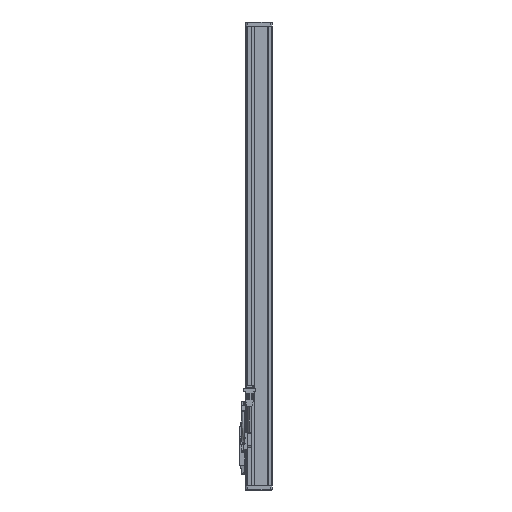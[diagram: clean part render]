
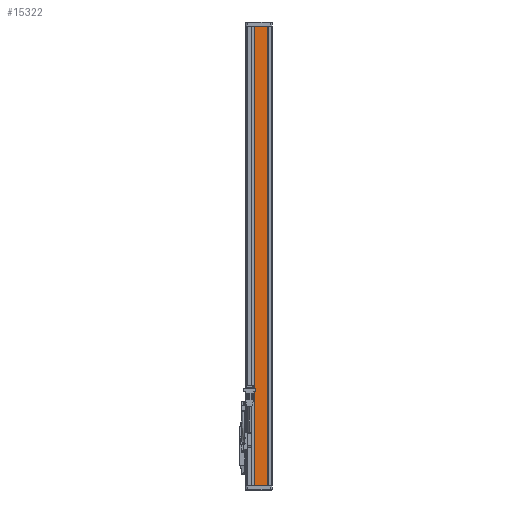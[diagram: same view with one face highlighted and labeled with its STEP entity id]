
A CAD part, left-side view. The second image highlights one B-rep face of the part: STEP entity #15322.
In plain terms, the highlighted planar face has unit normal (-1, 0, 0).
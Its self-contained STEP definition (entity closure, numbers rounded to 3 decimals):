
#144 = PLANE('',#145);
#145 = AXIS2_PLACEMENT_3D('',#146,#147,#148);
#146 = CARTESIAN_POINT('',(-36.5,59.6,1090.));
#147 = DIRECTION('',(0.,0.,1.));
#148 = DIRECTION('',(1.,0.,-0.));
#809 = PLANE('',#810);
#810 = AXIS2_PLACEMENT_3D('',#811,#812,#813);
#811 = CARTESIAN_POINT('',(-36.5,59.6,0.));
#812 = DIRECTION('',(0.,0.,1.));
#813 = DIRECTION('',(1.,0.,-0.));
#9617 = VERTEX_POINT('',#9618);
#9618 = CARTESIAN_POINT('',(-40.5,43.6,1090.));
#9632 = PLANE('',#9633);
#9633 = AXIS2_PLACEMENT_3D('',#9634,#9635,#9636);
#9634 = CARTESIAN_POINT('',(-40.,43.6,1090.));
#9635 = DIRECTION('',(0.,1.,0.));
#9636 = DIRECTION('',(0.,-0.,1.));
#9644 = EDGE_CURVE('',#9617,#9645,#9647,.T.);
#9645 = VERTEX_POINT('',#9646);
#9646 = CARTESIAN_POINT('',(-40.5,11.,1090.));
#9647 = SURFACE_CURVE('',#9648,(#9652,#9659),.PCURVE_S1.);
#9648 = LINE('',#9649,#9650);
#9649 = CARTESIAN_POINT('',(-40.5,19.,1090.));
#9650 = VECTOR('',#9651,1.);
#9651 = DIRECTION('',(0.,-1.,0.));
#9652 = PCURVE('',#144,#9653);
#9653 = DEFINITIONAL_REPRESENTATION('',(#9654),#9658);
#9654 = LINE('',#9655,#9656);
#9655 = CARTESIAN_POINT('',(-4.,-40.6));
#9656 = VECTOR('',#9657,1.);
#9657 = DIRECTION('',(0.,-1.));
#9658 = ( GEOMETRIC_REPRESENTATION_CONTEXT(2) 
PARAMETRIC_REPRESENTATION_CONTEXT() REPRESENTATION_CONTEXT('2D SPACE',''
  ) );
#9659 = PCURVE('',#9660,#9665);
#9660 = PLANE('',#9661);
#9661 = AXIS2_PLACEMENT_3D('',#9662,#9663,#9664);
#9662 = CARTESIAN_POINT('',(-40.5,19.,1090.));
#9663 = DIRECTION('',(1.,0.,-0.));
#9664 = DIRECTION('',(-0.,0.,-1.));
#9665 = DEFINITIONAL_REPRESENTATION('',(#9666),#9670);
#9666 = LINE('',#9667,#9668);
#9667 = CARTESIAN_POINT('',(0.,0.));
#9668 = VECTOR('',#9669,1.);
#9669 = DIRECTION('',(-0.,-1.));
#9670 = ( GEOMETRIC_REPRESENTATION_CONTEXT(2) 
PARAMETRIC_REPRESENTATION_CONTEXT() REPRESENTATION_CONTEXT('2D SPACE',''
  ) );
#9688 = PLANE('',#9689);
#9689 = AXIS2_PLACEMENT_3D('',#9690,#9691,#9692);
#9690 = CARTESIAN_POINT('',(-41.,10.5,1090.));
#9691 = DIRECTION('',(0.707,-0.707,0.));
#9692 = DIRECTION('',(0.707,0.707,0.));
#11034 = VERTEX_POINT('',#11035);
#11035 = CARTESIAN_POINT('',(-40.5,11.,0.));
#11056 = EDGE_CURVE('',#11057,#11034,#11059,.T.);
#11057 = VERTEX_POINT('',#11058);
#11058 = CARTESIAN_POINT('',(-40.5,43.6,0.));
#11059 = SURFACE_CURVE('',#11060,(#11064,#11071),.PCURVE_S1.);
#11060 = LINE('',#11061,#11062);
#11061 = CARTESIAN_POINT('',(-40.5,19.,0.));
#11062 = VECTOR('',#11063,1.);
#11063 = DIRECTION('',(0.,-1.,0.));
#11064 = PCURVE('',#809,#11065);
#11065 = DEFINITIONAL_REPRESENTATION('',(#11066),#11070);
#11066 = LINE('',#11067,#11068);
#11067 = CARTESIAN_POINT('',(-4.,-40.6));
#11068 = VECTOR('',#11069,1.);
#11069 = DIRECTION('',(0.,-1.));
#11070 = ( GEOMETRIC_REPRESENTATION_CONTEXT(2) 
PARAMETRIC_REPRESENTATION_CONTEXT() REPRESENTATION_CONTEXT('2D SPACE',''
  ) );
#11071 = PCURVE('',#9660,#11072);
#11072 = DEFINITIONAL_REPRESENTATION('',(#11073),#11077);
#11073 = LINE('',#11074,#11075);
#11074 = CARTESIAN_POINT('',(1090.,0.));
#11075 = VECTOR('',#11076,1.);
#11076 = DIRECTION('',(-0.,-1.));
#11077 = ( GEOMETRIC_REPRESENTATION_CONTEXT(2) 
PARAMETRIC_REPRESENTATION_CONTEXT() REPRESENTATION_CONTEXT('2D SPACE',''
  ) );
#13291 = EDGE_CURVE('',#9645,#11034,#13292,.T.);
#13292 = SURFACE_CURVE('',#13293,(#13297,#13304),.PCURVE_S1.);
#13293 = LINE('',#13294,#13295);
#13294 = CARTESIAN_POINT('',(-40.5,11.,1090.));
#13295 = VECTOR('',#13296,1.);
#13296 = DIRECTION('',(-0.,-0.,-1.));
#13297 = PCURVE('',#9688,#13298);
#13298 = DEFINITIONAL_REPRESENTATION('',(#13299),#13303);
#13299 = LINE('',#13300,#13301);
#13300 = CARTESIAN_POINT('',(0.707,0.));
#13301 = VECTOR('',#13302,1.);
#13302 = DIRECTION('',(0.,-1.));
#13303 = ( GEOMETRIC_REPRESENTATION_CONTEXT(2) 
PARAMETRIC_REPRESENTATION_CONTEXT() REPRESENTATION_CONTEXT('2D SPACE',''
  ) );
#13304 = PCURVE('',#9660,#13305);
#13305 = DEFINITIONAL_REPRESENTATION('',(#13306),#13310);
#13306 = LINE('',#13307,#13308);
#13307 = CARTESIAN_POINT('',(-0.,-8.));
#13308 = VECTOR('',#13309,1.);
#13309 = DIRECTION('',(1.,-0.));
#13310 = ( GEOMETRIC_REPRESENTATION_CONTEXT(2) 
PARAMETRIC_REPRESENTATION_CONTEXT() REPRESENTATION_CONTEXT('2D SPACE',''
  ) );
#15322 = ADVANCED_FACE('',(#15323),#9660,.F.);
#15323 = FACE_BOUND('',#15324,.T.);
#15324 = EDGE_LOOP('',(#15325,#15326,#15327,#15328));
#15325 = ORIENTED_EDGE('',*,*,#11056,.T.);
#15326 = ORIENTED_EDGE('',*,*,#13291,.F.);
#15327 = ORIENTED_EDGE('',*,*,#9644,.F.);
#15328 = ORIENTED_EDGE('',*,*,#15329,.F.);
#15329 = EDGE_CURVE('',#11057,#9617,#15330,.T.);
#15330 = SURFACE_CURVE('',#15331,(#15335,#15342),.PCURVE_S1.);
#15331 = LINE('',#15332,#15333);
#15332 = CARTESIAN_POINT('',(-40.5,43.6,1090.));
#15333 = VECTOR('',#15334,1.);
#15334 = DIRECTION('',(0.,0.,1.));
#15335 = PCURVE('',#9660,#15336);
#15336 = DEFINITIONAL_REPRESENTATION('',(#15337),#15341);
#15337 = LINE('',#15338,#15339);
#15338 = CARTESIAN_POINT('',(0.,24.6));
#15339 = VECTOR('',#15340,1.);
#15340 = DIRECTION('',(-1.,0.));
#15341 = ( GEOMETRIC_REPRESENTATION_CONTEXT(2) 
PARAMETRIC_REPRESENTATION_CONTEXT() REPRESENTATION_CONTEXT('2D SPACE',''
  ) );
#15342 = PCURVE('',#9632,#15343);
#15343 = DEFINITIONAL_REPRESENTATION('',(#15344),#15348);
#15344 = LINE('',#15345,#15346);
#15345 = CARTESIAN_POINT('',(0.,-0.5));
#15346 = VECTOR('',#15347,1.);
#15347 = DIRECTION('',(1.,0.));
#15348 = ( GEOMETRIC_REPRESENTATION_CONTEXT(2) 
PARAMETRIC_REPRESENTATION_CONTEXT() REPRESENTATION_CONTEXT('2D SPACE',''
  ) );
